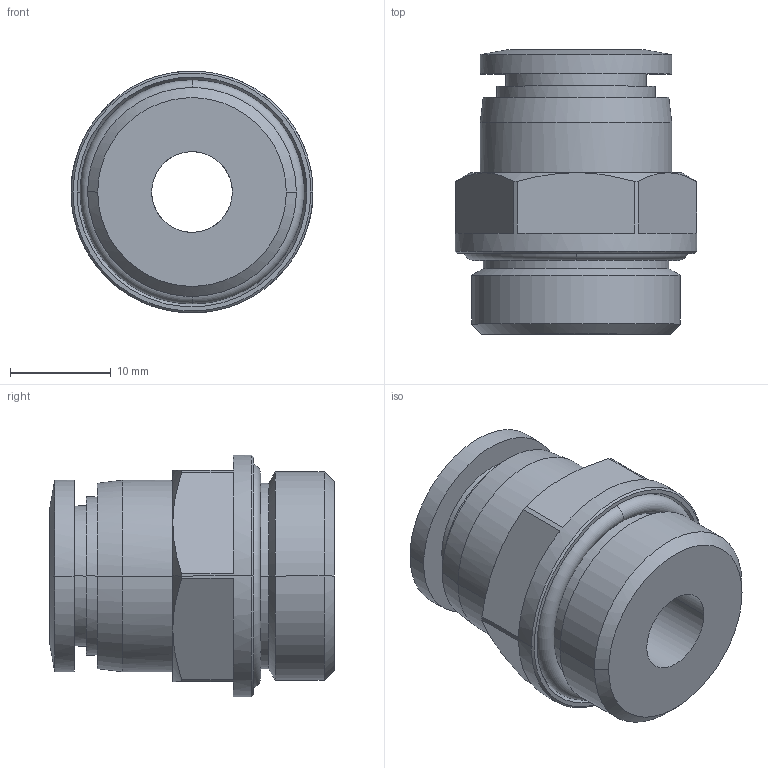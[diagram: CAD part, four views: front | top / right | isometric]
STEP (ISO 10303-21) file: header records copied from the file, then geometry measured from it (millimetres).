
FILE_DESCRIPTION (( 'STEP AP203' ), '1' );
FILE_NAME ('FH12-04.STEP', '2020-05-06T14:37:16', ( '' ), ( '' ), 'SwSTEP 2.0', 'SolidWorks 2019', '' );
FILE_SCHEMA (( 'CONFIG_CONTROL_DESIGN' ));
Length unit declared in the file: millimetre
Products named in the file (1): FH12-04
Bounding box: 24 x 28.2 x 23.99 mm (x, y, z)
Surface area: 4354.9 mm2 (no closed solid volume)
Topology: 0 solids, 4 shells, 67 faces, 156 edges, 99 vertices
Faces by surface type: plane 22, cylinder 20, cone 19, torus 6
Entity records: 3335 total; most frequent: CARTESIAN_POINT 1968, ORIENTED_EDGE 296, DIRECTION 181, EDGE_CURVE 156, B_SPLINE_CURVE_WITH_KNOTS 117, VERTEX_POINT 99, EDGE_LOOP 77, AXIS2_PLACEMENT_3D 74
